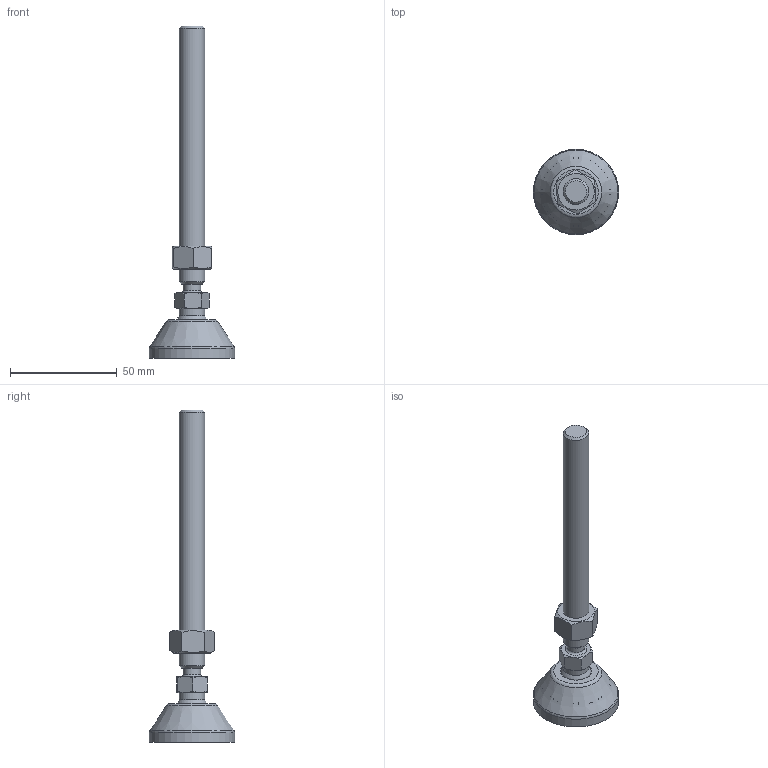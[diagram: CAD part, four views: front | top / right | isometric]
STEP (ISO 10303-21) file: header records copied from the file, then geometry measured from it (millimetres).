
FILE_DESCRIPTION(('STEP AP203'), '1');
FILE_NAME('栖闉罻', '', ('UNSPECIFIED'), ('UNSPECIFIED'), 'C3D Converter', 'C3D Toolkit', '');
FILE_SCHEMA(('CONFIG_CONTROL_DESIGN'));
Length unit declared in the file: millimetre
Products named in the file (4): A00015.1040; A00020.112125
Assembly tree (3 placements, depth 3):
  (unnamed)
    A00015.1040
    A00020.112125
      (unnamed)
Bounding box: 40 x 40 x 155.7 mm (x, y, z)
Volume: 28801.1 mm3; surface area: 13471.4 mm2
Topology: 3 solids, 3 shells, 149 faces, 405 edges, 267 vertices
Faces by surface type: plane 79, cylinder 26, cone 21, torus 21, sphere 2
Full cylindrical faces by diameter (mm): 8.3 x1, 10.647 x1, 12 x2, 14.3 x1, 15 x2, 15.5 x1, 32 x1, 40 x1
Entity records: 8517 total; most frequent: CARTESIAN_POINT 3489, ORIENTED_EDGE 756, DIRECTION 750, EDGE_CURVE 378, AXIS2_PLACEMENT_3D 305, VERTEX_POINT 266, EDGE_LOOP 182, FACE_BOUND 159
